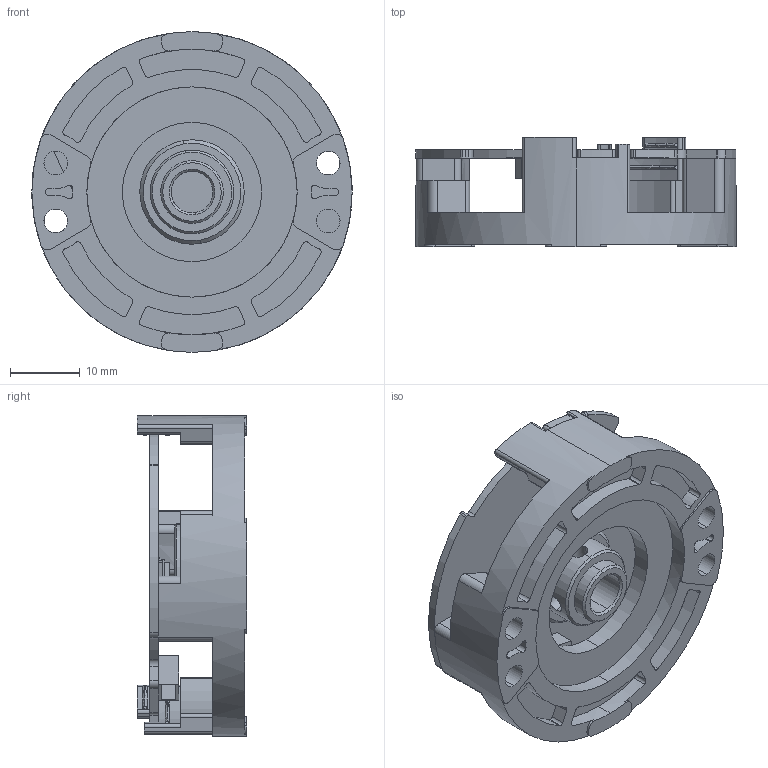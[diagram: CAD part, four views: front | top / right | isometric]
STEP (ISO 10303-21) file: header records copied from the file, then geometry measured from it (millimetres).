
FILE_DESCRIPTION (( 'STEP AP214' ), '1' );
FILE_NAME ('SRM46SP詢遴-耳6-俋楷.STEP', '2022-07-27T03:07:41', ( '' ), ( '' ), 'SwSTEP 2.0', 'SolidWorks 2016', '' );
FILE_SCHEMA (( 'AUTOMOTIVE_DESIGN' ));
Length unit declared in the file: millimetre
Products named in the file (3): SRM46SP詢遴-盓殤郪璃; 耳6粣郪璃; SRM46SP詢遴-耳6-俋楷
Assembly tree (2 placements, depth 2):
  SRM46SP詢遴-耳6-俋楷
    SRM46SP詢遴-盓殤郪璃
    耳6粣郪璃
Bounding box: 46 x 15.7 x 46 mm (x, y, z)
Volume: 9156.4 mm3; surface area: 10531.2 mm2
Topology: 6 solids, 6 shells, 476 faces, 1290 edges, 841 vertices
Faces by surface type: cylinder 253, plane 195, torus 14, cone 14
Entity records: 20755 total; most frequent: CARTESIAN_POINT 2890, DIRECTION 2771, ORIENTED_EDGE 2580, EDGE_CURVE 1290, AXIS2_PLACEMENT_3D 1034, VERTEX_POINT 841, VECTOR 703, LINE 703
